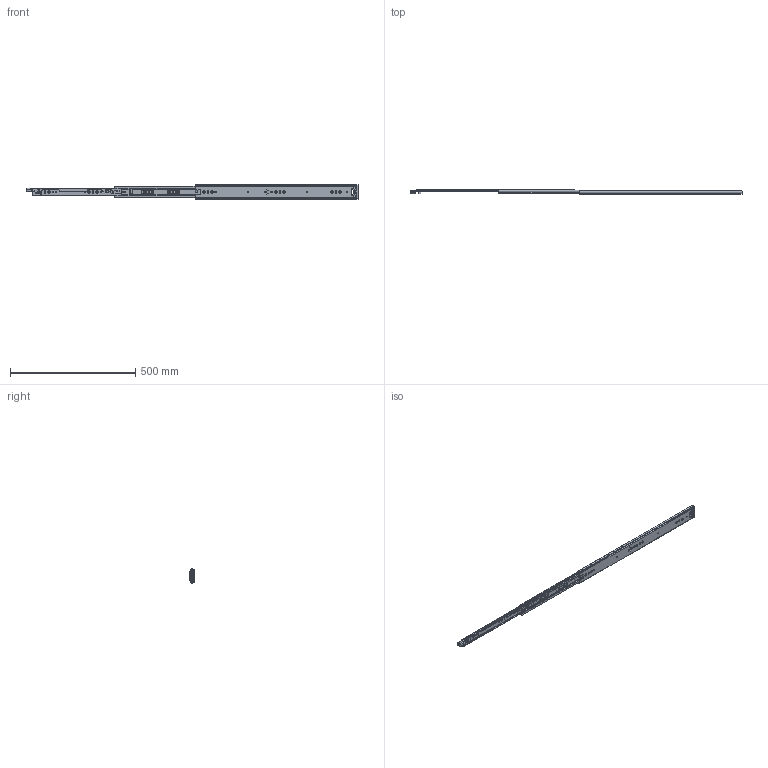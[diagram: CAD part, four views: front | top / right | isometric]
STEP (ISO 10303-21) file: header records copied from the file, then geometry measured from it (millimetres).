
FILE_DESCRIPTION((''),'2;1');
FILE_NAME('KP-57-01ZUZHUANGTU-26YOU_ASM','2023-04-03T',('jishu015'),(''),'PRO/ENGINEER BY PARAMETRIC TECHNOLOGY CORPORATION, 2010280','PRO/ENGINEER BY PARAMETRIC TECHNOLOGY CORPORATION, 2010280','');
FILE_SCHEMA(('CONFIG_CONTROL_DESIGN'));
Products named in the file (21): KP-57-01WEIKE-18______________; 1057WEIJIAO______________; WAIKE_____________ASM; KP-57-01ZHONGGUI-26_; ZHONGGUIPEIJIAN-11____________; ZHONGGUISUOKOU-11____________; KP-57-01ZHONGGUI-26__ASM; 1057XIAOZHUJIA______________; 1057-5-6GANZHU______________; 1057XIAOZHUJIA-14GE26__ASM; KP-57-01NEIGUI-18______________; PJ-57-08____________; DIAOPIAN-11____________; 50XINSUOKOU-1____________; 1053-3SBANJI122__________; JIAO11__________; KP-57-01NEIGUI-18_______________ASM; 1053ZHUTIAO-275_; 53-5-6GANZHU__________________; 1053ZHUTIAO-175MM_____________ASM; KP-57-01ZUZHUANGTU-26YOU_ASM
Assembly tree (74 placements, depth 3):
  KP-57-01ZUZHUANGTU-26YOU_ASM
    WAIKE_____________ASM
      KP-57-01WEIKE-18______________
      1057WEIJIAO______________
    KP-57-01ZHONGGUI-26__ASM
      KP-57-01ZHONGGUI-26_
      ZHONGGUIPEIJIAN-11____________
      ZHONGGUISUOKOU-11____________
    1057XIAOZHUJIA-14GE26__ASM
      1057XIAOZHUJIA______________
      1057-5-6GANZHU______________  x44
    KP-57-01NEIGUI-18_______________ASM
      KP-57-01NEIGUI-18______________
      PJ-57-08____________
      DIAOPIAN-11____________
      50XINSUOKOU-1____________
      1053-3SBANJI122__________
      JIAO11__________
    1053ZHUTIAO-175MM_____________ASM  x2
      1053ZHUTIAO-275_
      53-5-6GANZHU__________________
Bounding box: 1326.97 x 19 x 57.67 mm (x, y, z)
Volume: 283975.9 mm3; surface area: 308372.4 mm2
Topology: 82 solids, 82 shells, 2216 faces, 6388 edges, 4005 vertices
Faces by surface type: cylinder 940, plane 920, sphere 143, bspline 103, cone 68, extrusion 23, torus 19
Entity records: 72508 total; most frequent: CARTESIAN_POINT 18122, ORIENTED_EDGE 11532, DIRECTION 11158, EDGE_CURVE 5766, AXIS2_PLACEMENT_3D 3840, VERTEX_POINT 3729, VECTOR 3478, LINE 3455
